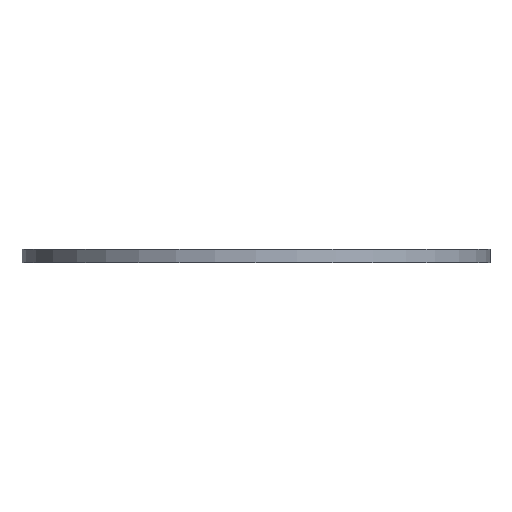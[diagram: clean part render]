
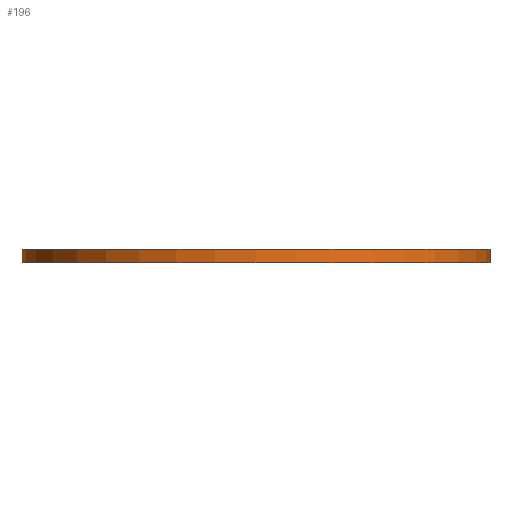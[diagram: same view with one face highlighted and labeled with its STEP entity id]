
A CAD part, front view. The second image highlights one B-rep face of the part: STEP entity #196.
In plain terms, the highlighted cylindrical face has radius 67.5 mm (diameter 135 mm), a partial arc.
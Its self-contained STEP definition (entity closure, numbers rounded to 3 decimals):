
#40 = CARTESIAN_POINT ( 'NONE',  ( 0., 0., 3. ) ) ;
#42 = EDGE_CURVE ( 'NONE', #98, #1285, #767, .T. ) ;
#64 = CARTESIAN_POINT ( 'NONE',  ( 67.5, 0., 3. ) ) ;
#71 = FACE_OUTER_BOUND ( 'NONE', #258, .T. ) ;
#90 = DIRECTION ( 'NONE',  ( 0., 0., -1. ) ) ;
#98 = VERTEX_POINT ( 'NONE', #1350 ) ;
#138 = VECTOR ( 'NONE', #1516, 1000. ) ;
#196 = ADVANCED_FACE ( 'NONE', ( #71 ), #838, .T. ) ;
#258 = EDGE_LOOP ( 'NONE', ( #1331, #1136, #1245, #1416 ) ) ;
#408 = EDGE_CURVE ( 'NONE', #827, #98, #558, .T. ) ;
#498 = DIRECTION ( 'NONE',  ( -1., 0., 0. ) ) ;
#508 = AXIS2_PLACEMENT_3D ( 'NONE', #1641, #1296, #2003 ) ;
#558 = LINE ( 'NONE', #64, #675 ) ;
#596 = AXIS2_PLACEMENT_3D ( 'NONE', #1929, #968, #498 ) ;
#609 = EDGE_CURVE ( 'NONE', #997, #827, #1974, .T. ) ;
#675 = VECTOR ( 'NONE', #90, 1000. ) ;
#767 = CIRCLE ( 'NONE', #596, 67.5 ) ;
#816 = CARTESIAN_POINT ( 'NONE',  ( -67.5, 0., 3. ) ) ;
#827 = VERTEX_POINT ( 'NONE', #1681 ) ;
#838 = CYLINDRICAL_SURFACE ( 'NONE', #906, 67.5 ) ;
#853 = DIRECTION ( 'NONE',  ( -1., 0., 0. ) ) ;
#867 = EDGE_CURVE ( 'NONE', #997, #1285, #1550, .T. ) ;
#906 = AXIS2_PLACEMENT_3D ( 'NONE', #40, #1168, #853 ) ;
#968 = DIRECTION ( 'NONE',  ( 0., 0., -1. ) ) ;
#997 = VERTEX_POINT ( 'NONE', #816 ) ;
#1081 = CARTESIAN_POINT ( 'NONE',  ( -67.5, 0., 3. ) ) ;
#1136 = ORIENTED_EDGE ( 'NONE', *, *, #609, .F. ) ;
#1168 = DIRECTION ( 'NONE',  ( 0., 0., -1. ) ) ;
#1245 = ORIENTED_EDGE ( 'NONE', *, *, #867, .T. ) ;
#1285 = VERTEX_POINT ( 'NONE', #1881 ) ;
#1296 = DIRECTION ( 'NONE',  ( 0., 0., 1. ) ) ;
#1331 = ORIENTED_EDGE ( 'NONE', *, *, #408, .F. ) ;
#1350 = CARTESIAN_POINT ( 'NONE',  ( 67.5, 0., -1. ) ) ;
#1416 = ORIENTED_EDGE ( 'NONE', *, *, #42, .F. ) ;
#1516 = DIRECTION ( 'NONE',  ( 0., 0., -1. ) ) ;
#1550 = LINE ( 'NONE', #1081, #138 ) ;
#1641 = CARTESIAN_POINT ( 'NONE',  ( 0., 0., 3. ) ) ;
#1681 = CARTESIAN_POINT ( 'NONE',  ( 67.5, 0., 3. ) ) ;
#1881 = CARTESIAN_POINT ( 'NONE',  ( -67.5, 0., -1. ) ) ;
#1929 = CARTESIAN_POINT ( 'NONE',  ( 0., 0., -1. ) ) ;
#1974 = CIRCLE ( 'NONE', #508, 67.5 ) ;
#2003 = DIRECTION ( 'NONE',  ( 1., 0., 0. ) ) ;
